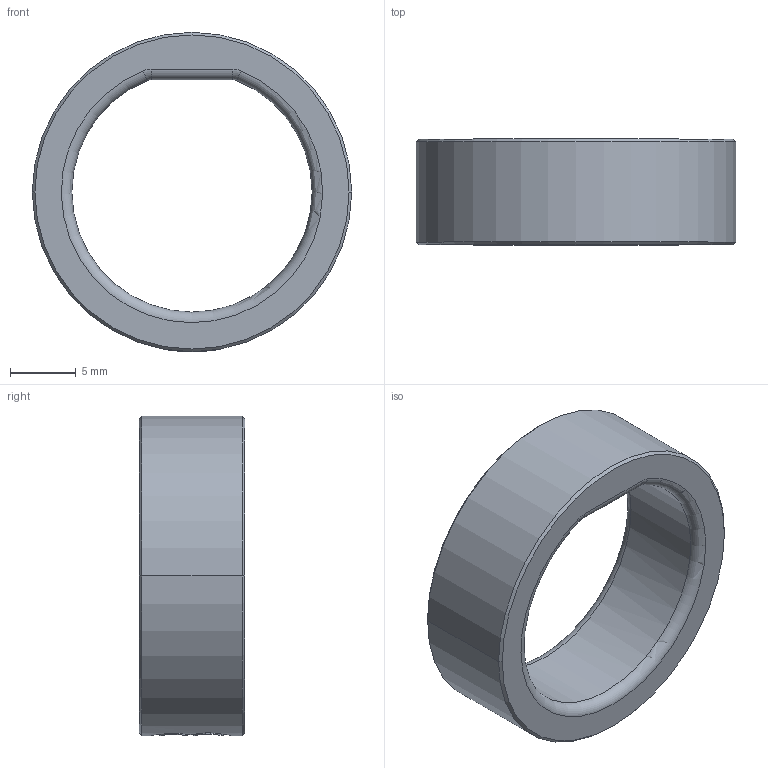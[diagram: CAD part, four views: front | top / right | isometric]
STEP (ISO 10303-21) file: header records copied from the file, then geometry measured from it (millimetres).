
FILE_DESCRIPTION((''),'2;1');
FILE_NAME('8','2026-09-02T10:04:43',('krisl'),(''),'CREO PARAMETRIC BY PTC INC, 2024063','CREO PARAMETRIC BY PTC INC, 2024063','');
FILE_SCHEMA(('CONFIG_CONTROL_DESIGN'));
Length unit declared in the file: millimetre
Products named in the file (1): 8
Bounding box: 24.2 x 8 x 24.2 mm (x, y, z)
Volume: 1598.3 mm3; surface area: 1418.5 mm2
Topology: 1 solids, 1 shells, 89 faces, 252 edges, 168 vertices
Faces by surface type: bspline 66, cylinder 10, torus 6, cone 4, plane 3
Entity records: 3780 total; most frequent: CARTESIAN_POINT 1907, ORIENTED_EDGE 504, EDGE_CURVE 252, DIRECTION 180, B_SPLINE_CURVE_WITH_KNOTS 170, VERTEX_POINT 168, EDGE_LOOP 94, FACE_OUTER_BOUND 89
